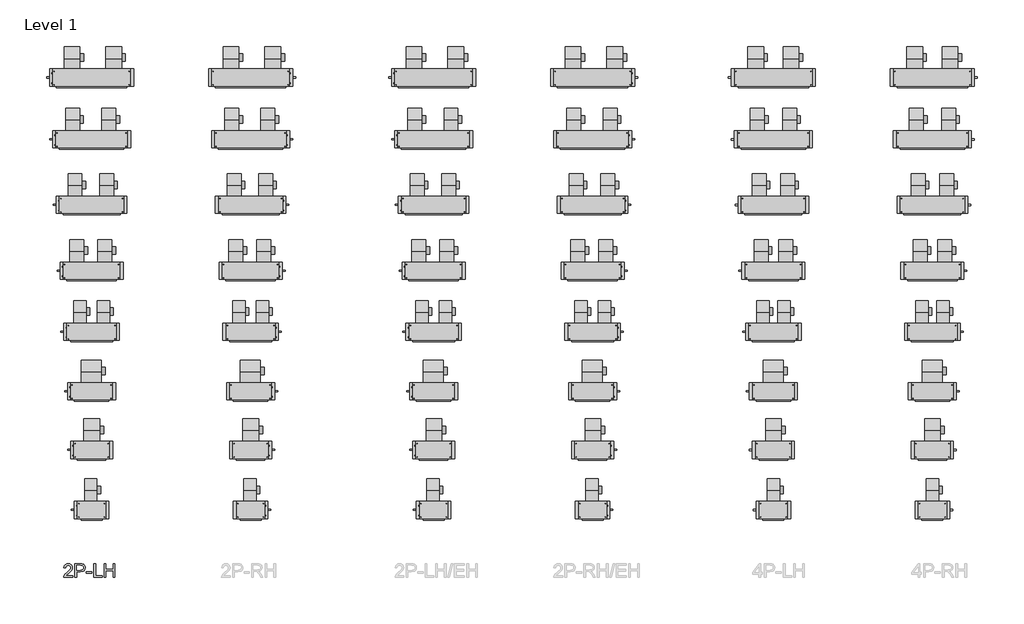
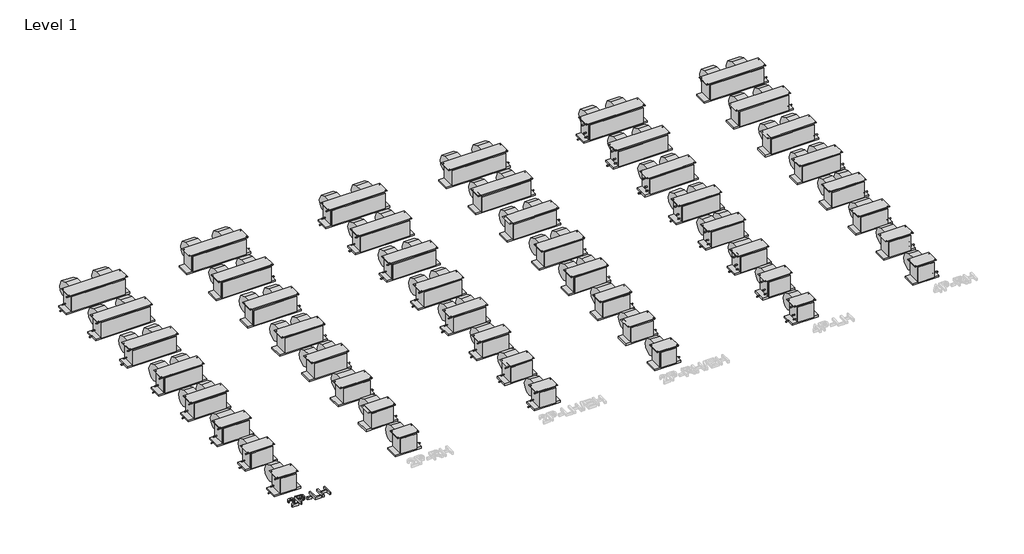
# One storey, part 1 of 2: 49 proxies.
"""IFC4 building model written with IfcOpenShell, lengths in millimetres."""

from ifc_helpers import new_model, si_unit, origin, origin_with_axes, place, context, project, spatial, polyline, outline, extrude, transform, mapped, element, save
from components import mechanical_equipment_b336f197, mechanical_equipment_7bd75dd6, mechanical_equipment_5b2d4382, mechanical_equipment_0da765f5, mechanical_equipment_d3091ad7, mechanical_equipment_25ea116e, mechanical_equipment_83f86b39, mechanical_equipment_b630f660, mechanical_equipment_327c370d, mechanical_equipment_c1a056bd, mechanical_equipment_f3a8d123, mechanical_equipment_8c316060, mechanical_equipment_e92b93c2, mechanical_equipment_0c6f6ab9, mechanical_equipment_46685ae8, mechanical_equipment_cc6112a4, mechanical_equipment_44f1a98d, mechanical_equipment_1c2b563a, mechanical_equipment_5883dd97, mechanical_equipment_65178799, mechanical_equipment_d59f8dc6, mechanical_equipment_3fbaa853, mechanical_equipment_f518d2dd, mechanical_equipment_786d0d70, mechanical_equipment_b18771d2, mechanical_equipment_a8bdb0d3, mechanical_equipment_5432daf3, mechanical_equipment_55c23c7e, mechanical_equipment_1806666c, mechanical_equipment_1f24bf90, mechanical_equipment_5fc22377, mechanical_equipment_e01b4b51, mechanical_equipment_2f8f14a6, mechanical_equipment_86e26982, mechanical_equipment_22c93f21, mechanical_equipment_be0efeef, mechanical_equipment_c3af3c27, mechanical_equipment_f2d7e844, mechanical_equipment_6f511b50, mechanical_equipment_e2659b0b

model = new_model("IFC4")

# Units and contexts
model_context = context("Model", 3, world=origin())
ifc_project = project(units=[si_unit("LENGTHUNIT", "METRE", prefix="MILLI")], contexts=[model_context])

# Site, building, storey
site = spatial("IfcSite", under=ifc_project)
building = spatial("IfcBuilding", under=site)
storey = spatial("IfcBuildingStorey", under=building, Name="Level 1", Elevation=0.0)

# Proxies
placement = place(None, origin())
mechanical_equipment_shape = mechanical_equipment_b336f197(model_context)
element("IfcBuildingElementProxy", 1, Name="Concealed_High_Capacity_Horizontal_Fan_Coil_Unit_-_42DAA_-_CARRIER_-_2-Pipe_Cool-EHeat_RH_2022 : Size 06 - 277v/60Hz/1Ph - 6 Row 4.0kW", ObjectType="Concealed_High_Capacity_Horizontal_Fan_Coil_Unit_-_42DAA_-_CARRIER_-_2-Pipe_Cool-EHeat_RH_2022 : Size 06 - 277v/60Hz/1Ph - 6 Row 4.0kW", at=placement, inside=storey, context=model_context, shape_type="MappedRepresentation", body=[
    mapped(mechanical_equipment_shape, transform((-18320.8750615, -4073.8454027, 0.0), x_axis=(1.0, 0.0, 0.0), y_axis=(0.0, 1.0, 0.0), z_axis=(0.0, 0.0, 1.0))),
])
mechanical_equipment_2_shape = mechanical_equipment_7bd75dd6(model_context)
element("IfcBuildingElementProxy", 2, Name="Concealed_High_Capacity_Horizontal_Fan_Coil_Unit_-_42DAA_-_CARRIER_-_2-Pipe_Cool-EHeat_RH_2022 : Size 08 - 277v/60Hz/1Ph - 6 Row 6.0kW", ObjectType="Concealed_High_Capacity_Horizontal_Fan_Coil_Unit_-_42DAA_-_CARRIER_-_2-Pipe_Cool-EHeat_RH_2022 : Size 08 - 277v/60Hz/1Ph - 6 Row 6.0kW", at=placement, inside=storey, context=model_context, shape_type="MappedRepresentation", body=[
    mapped(mechanical_equipment_2_shape, transform((-18320.8750615, -3058.0277745, 0.0), x_axis=(1.0, 0.0, 0.0), y_axis=(0.0, 1.0, 0.0), z_axis=(0.0, 0.0, 1.0))),
])
mechanical_equipment_3_shape = mechanical_equipment_5b2d4382(model_context)
element("IfcBuildingElementProxy", 3, Name="Concealed_High_Capacity_Horizontal_Fan_Coil_Unit_-_42DAA_-_CARRIER_-_2-Pipe_Cool-EHeat_RH_2022 : Size 10 - 277v/60Hz/1Ph - 6 Row 7.0kW", ObjectType="Concealed_High_Capacity_Horizontal_Fan_Coil_Unit_-_42DAA_-_CARRIER_-_2-Pipe_Cool-EHeat_RH_2022 : Size 10 - 277v/60Hz/1Ph - 6 Row 7.0kW", at=placement, inside=storey, context=model_context, shape_type="MappedRepresentation", body=[
    mapped(mechanical_equipment_3_shape, transform((-18320.8750615, -2065.4731455, 0.0), x_axis=(1.0, 0.0, 0.0), y_axis=(0.0, 1.0, 0.0), z_axis=(0.0, 0.0, 1.0))),
])
mechanical_equipment_4_shape = mechanical_equipment_0da765f5(model_context)
element("IfcBuildingElementProxy", 4, Name="Concealed_High_Capacity_Horizontal_Fan_Coil_Unit_-_42DAA_-_CARRIER_-_2-Pipe_Cool-EHeat_RH_2022 : Size 12 - 277v/60Hz/1Ph - 6 Row 9.0kW", ObjectType="Concealed_High_Capacity_Horizontal_Fan_Coil_Unit_-_42DAA_-_CARRIER_-_2-Pipe_Cool-EHeat_RH_2022 : Size 12 - 277v/60Hz/1Ph - 6 Row 9.0kW", at=placement, inside=storey, context=model_context, shape_type="MappedRepresentation", body=[
    mapped(mechanical_equipment_4_shape, transform((-18320.8750615, -1057.4098504, 0.0), x_axis=(1.0, 0.0, 0.0), y_axis=(0.0, 1.0, 0.0), z_axis=(0.0, 0.0, 1.0))),
])
mechanical_equipment_5_shape = mechanical_equipment_d3091ad7(model_context)
element("IfcBuildingElementProxy", 5, Name="Concealed_High_Capacity_Horizontal_Fan_Coil_Unit_-_42DAA_-_CARRIER_-_2-Pipe_Cool-EHeat_RH_2022 : Size 14 - 277v/60Hz/1Ph - 6 Row 10.0kW", ObjectType="Concealed_High_Capacity_Horizontal_Fan_Coil_Unit_-_42DAA_-_CARRIER_-_2-Pipe_Cool-EHeat_RH_2022 : Size 14 - 277v/60Hz/1Ph - 6 Row 10.0kW", at=placement, inside=storey, context=model_context, shape_type="MappedRepresentation", body=[
    mapped(mechanical_equipment_5_shape, transform((-18320.8750615, -26.0835561, 0.0), x_axis=(1.0, 0.0, 0.0), y_axis=(0.0, 1.0, 0.0), z_axis=(0.0, 0.0, 1.0))),
])
mechanical_equipment_6_shape = mechanical_equipment_25ea116e(model_context)
element("IfcBuildingElementProxy", 6, Name="Concealed_High_Capacity_Horizontal_Fan_Coil_Unit_-_42DAA_-_CARRIER_-_2-Pipe_Cool-EHeat_RH_2022 : Size 16 - 277v/60Hz/1Ph - 6 Row 12.0kW", ObjectType="Concealed_High_Capacity_Horizontal_Fan_Coil_Unit_-_42DAA_-_CARRIER_-_2-Pipe_Cool-EHeat_RH_2022 : Size 16 - 277v/60Hz/1Ph - 6 Row 12.0kW", at=placement, inside=storey, context=model_context, shape_type="MappedRepresentation", body=[
    mapped(mechanical_equipment_6_shape, transform((-18320.8750615, 1090.5404016, 0.0), x_axis=(1.0, 0.0, 0.0), y_axis=(0.0, 1.0, 0.0), z_axis=(0.0, 0.0, 1.0))),
])
mechanical_equipment_7_shape = mechanical_equipment_83f86b39(model_context)
element("IfcBuildingElementProxy", 7, Name="Concealed_High_Capacity_Horizontal_Fan_Coil_Unit_-_42DAA_-_CARRIER_-_2-Pipe_Cool-EHeat_RH_2022 : Size 18 - 277v/60Hz/1Ph - 6 Row 12.0kW", ObjectType="Concealed_High_Capacity_Horizontal_Fan_Coil_Unit_-_42DAA_-_CARRIER_-_2-Pipe_Cool-EHeat_RH_2022 : Size 18 - 277v/60Hz/1Ph - 6 Row 12.0kW", at=placement, inside=storey, context=model_context, shape_type="MappedRepresentation", body=[
    mapped(mechanical_equipment_7_shape, transform((-18320.8750615, 2199.4100262, 0.0), x_axis=(1.0, 0.0, 0.0), y_axis=(0.0, 1.0, 0.0), z_axis=(0.0, 0.0, 1.0))),
])
mechanical_equipment_8_shape = mechanical_equipment_b630f660(model_context)
element("IfcBuildingElementProxy", 8, Name="Concealed_High_Capacity_Horizontal_Fan_Coil_Unit_-_42DAA_-_CARRIER_-_2-Pipe_Cool-EHeat_RH_2022 : Size 20 - 277v/60Hz/1Ph - 6 Row 14.0kW", ObjectType="Concealed_High_Capacity_Horizontal_Fan_Coil_Unit_-_42DAA_-_CARRIER_-_2-Pipe_Cool-EHeat_RH_2022 : Size 20 - 277v/60Hz/1Ph - 6 Row 14.0kW", at=placement, inside=storey, context=model_context, shape_type="MappedRepresentation", body=[
    mapped(mechanical_equipment_8_shape, transform((-18320.8750615, 3247.3200933, 0.0), x_axis=(1.0, 0.0, 0.0), y_axis=(0.0, 1.0, 0.0), z_axis=(0.0, 0.0, 1.0))),
])
mechanical_equipment_9_shape = mechanical_equipment_327c370d(model_context)
element("IfcBuildingElementProxy", 9, Name="Concealed_High_Capacity_Horizontal_Fan_Coil_Unit_-_42DAA_-_CARRIER_-_4-Pipe_RH_2022 : Size 06 - 277v/60Hz/1Ph - 6/2 Coil", ObjectType="Concealed_High_Capacity_Horizontal_Fan_Coil_Unit_-_42DAA_-_CARRIER_-_4-Pipe_RH_2022 : Size 06 - 277v/60Hz/1Ph - 6/2 Coil", at=placement, inside=storey, context=model_context, shape_type="MappedRepresentation", body=[
    mapped(mechanical_equipment_9_shape, transform((-12694.3891912, -4089.7204027, 0.0), x_axis=(1.0, 0.0, 0.0), y_axis=(0.0, 1.0, 0.0), z_axis=(0.0, 0.0, 1.0))),
])
mechanical_equipment_10_shape = mechanical_equipment_c1a056bd(model_context)
element("IfcBuildingElementProxy", 10, Name="Concealed_High_Capacity_Horizontal_Fan_Coil_Unit_-_42DAA_-_CARRIER_-_4-Pipe_RH_2022 : Size 08 - 277v/60Hz/1Ph - 6/2 Coil", ObjectType="Concealed_High_Capacity_Horizontal_Fan_Coil_Unit_-_42DAA_-_CARRIER_-_4-Pipe_RH_2022 : Size 08 - 277v/60Hz/1Ph - 6/2 Coil", at=placement, inside=storey, context=model_context, shape_type="MappedRepresentation", body=[
    mapped(mechanical_equipment_10_shape, transform((-12694.3891912, -3073.9027745, 0.0), x_axis=(1.0, 0.0, 0.0), y_axis=(0.0, 1.0, 0.0), z_axis=(0.0, 0.0, 1.0))),
])
mechanical_equipment_11_shape = mechanical_equipment_f3a8d123(model_context)
element("IfcBuildingElementProxy", 11, Name="Concealed_High_Capacity_Horizontal_Fan_Coil_Unit_-_42DAA_-_CARRIER_-_4-Pipe_RH_2022 : Size 10 - 277v/60Hz/1Ph - 6/2 Coil", ObjectType="Concealed_High_Capacity_Horizontal_Fan_Coil_Unit_-_42DAA_-_CARRIER_-_4-Pipe_RH_2022 : Size 10 - 277v/60Hz/1Ph - 6/2 Coil", at=placement, inside=storey, context=model_context, shape_type="MappedRepresentation", body=[
    mapped(mechanical_equipment_11_shape, transform((-12694.3891912, -2081.3481455, 0.0), x_axis=(1.0, 0.0, 0.0), y_axis=(0.0, 1.0, 0.0), z_axis=(0.0, 0.0, 1.0))),
])
mechanical_equipment_12_shape = mechanical_equipment_8c316060(model_context)
element("IfcBuildingElementProxy", 12, Name="Concealed_High_Capacity_Horizontal_Fan_Coil_Unit_-_42DAA_-_CARRIER_-_4-Pipe_RH_2022 : Size 12 - 277v/60Hz/1Ph - 6/2 Coil", ObjectType="Concealed_High_Capacity_Horizontal_Fan_Coil_Unit_-_42DAA_-_CARRIER_-_4-Pipe_RH_2022 : Size 12 - 277v/60Hz/1Ph - 6/2 Coil", at=placement, inside=storey, context=model_context, shape_type="MappedRepresentation", body=[
    mapped(mechanical_equipment_12_shape, transform((-12694.3891912, -1073.2848504, 0.0), x_axis=(1.0, 0.0, 0.0), y_axis=(0.0, 1.0, 0.0), z_axis=(0.0, 0.0, 1.0))),
])
mechanical_equipment_13_shape = mechanical_equipment_e92b93c2(model_context)
element("IfcBuildingElementProxy", 13, Name="Concealed_High_Capacity_Horizontal_Fan_Coil_Unit_-_42DAA_-_CARRIER_-_4-Pipe_RH_2022 : Size 14 - 277v/60Hz/1Ph - 6/2 Coil", ObjectType="Concealed_High_Capacity_Horizontal_Fan_Coil_Unit_-_42DAA_-_CARRIER_-_4-Pipe_RH_2022 : Size 14 - 277v/60Hz/1Ph - 6/2 Coil", at=placement, inside=storey, context=model_context, shape_type="MappedRepresentation", body=[
    mapped(mechanical_equipment_13_shape, transform((-12694.3891912, -41.9585561, 0.0), x_axis=(1.0, 0.0, 0.0), y_axis=(0.0, 1.0, 0.0), z_axis=(0.0, 0.0, 1.0))),
])
mechanical_equipment_14_shape = mechanical_equipment_0c6f6ab9(model_context)
element("IfcBuildingElementProxy", 14, Name="Concealed_High_Capacity_Horizontal_Fan_Coil_Unit_-_42DAA_-_CARRIER_-_4-Pipe_RH_2022 : Size 16 - 277v/60Hz/1Ph - 6/2 Coil", ObjectType="Concealed_High_Capacity_Horizontal_Fan_Coil_Unit_-_42DAA_-_CARRIER_-_4-Pipe_RH_2022 : Size 16 - 277v/60Hz/1Ph - 6/2 Coil", at=placement, inside=storey, context=model_context, shape_type="MappedRepresentation", body=[
    mapped(mechanical_equipment_14_shape, transform((-12694.3891912, 1074.6654016, 0.0), x_axis=(1.0, 0.0, 0.0), y_axis=(0.0, 1.0, 0.0), z_axis=(0.0, 0.0, 1.0))),
])
mechanical_equipment_15_shape = mechanical_equipment_46685ae8(model_context)
element("IfcBuildingElementProxy", 15, Name="Concealed_High_Capacity_Horizontal_Fan_Coil_Unit_-_42DAA_-_CARRIER_-_4-Pipe_RH_2022 : Size 18 - 277v/60Hz/1Ph - 6/2 Coil", ObjectType="Concealed_High_Capacity_Horizontal_Fan_Coil_Unit_-_42DAA_-_CARRIER_-_4-Pipe_RH_2022 : Size 18 - 277v/60Hz/1Ph - 6/2 Coil", at=placement, inside=storey, context=model_context, shape_type="MappedRepresentation", body=[
    mapped(mechanical_equipment_15_shape, transform((-12694.3891912, 2183.5350262, 0.0), x_axis=(1.0, 0.0, 0.0), y_axis=(0.0, 1.0, 0.0), z_axis=(0.0, 0.0, 1.0))),
])
mechanical_equipment_16_shape = mechanical_equipment_cc6112a4(model_context)
element("IfcBuildingElementProxy", 16, Name="Concealed_High_Capacity_Horizontal_Fan_Coil_Unit_-_42DAA_-_CARRIER_-_4-Pipe_RH_2022 : Size 20 - 277v/60Hz/1Ph - 6/2 Coil", ObjectType="Concealed_High_Capacity_Horizontal_Fan_Coil_Unit_-_42DAA_-_CARRIER_-_4-Pipe_RH_2022 : Size 20 - 277v/60Hz/1Ph - 6/2 Coil", at=placement, inside=storey, context=model_context, shape_type="MappedRepresentation", body=[
    mapped(mechanical_equipment_16_shape, transform((-12694.3891912, 3231.4450933, 0.0), x_axis=(1.0, 0.0, 0.0), y_axis=(0.0, 1.0, 0.0), z_axis=(0.0, 0.0, 1.0))),
])
mechanical_equipment_17_shape = mechanical_equipment_44f1a98d(model_context)
element("IfcBuildingElementProxy", 17, Name="Concealed_High_Capacity_Horizontal_Fan_Coil_Unit_-_42DAA_-_CARRIER_-_2-Pipe_Cool-EHeat_LH_2022 : Size 06 - 277v/60Hz/1Ph - 6 Row 4.0kW", ObjectType="Concealed_High_Capacity_Horizontal_Fan_Coil_Unit_-_42DAA_-_CARRIER_-_2-Pipe_Cool-EHeat_LH_2022 : Size 06 - 277v/60Hz/1Ph - 6 Row 4.0kW", at=placement, inside=storey, context=model_context, shape_type="MappedRepresentation", body=[
    mapped(mechanical_equipment_17_shape, transform((-21013.2750615, -4073.8454027, 0.0), x_axis=(1.0, 0.0, 0.0), y_axis=(0.0, 1.0, 0.0), z_axis=(0.0, 0.0, 1.0))),
])
mechanical_equipment_18_shape = mechanical_equipment_1c2b563a(model_context)
element("IfcBuildingElementProxy", 18, Name="Concealed_High_Capacity_Horizontal_Fan_Coil_Unit_-_42DAA_-_CARRIER_-_2-Pipe_Cool-EHeat_LH_2022 : Size 08 - 277v/60Hz/1Ph - 6 Row 6.0kW", ObjectType="Concealed_High_Capacity_Horizontal_Fan_Coil_Unit_-_42DAA_-_CARRIER_-_2-Pipe_Cool-EHeat_LH_2022 : Size 08 - 277v/60Hz/1Ph - 6 Row 6.0kW", at=placement, inside=storey, context=model_context, shape_type="MappedRepresentation", body=[
    mapped(mechanical_equipment_18_shape, transform((-21013.2750615, -3058.0277745, 0.0), x_axis=(1.0, 0.0, 0.0), y_axis=(0.0, 1.0, 0.0), z_axis=(0.0, 0.0, 1.0))),
])
mechanical_equipment_19_shape = mechanical_equipment_5883dd97(model_context)
element("IfcBuildingElementProxy", 19, Name="Concealed_High_Capacity_Horizontal_Fan_Coil_Unit_-_42DAA_-_CARRIER_-_2-Pipe_Cool-EHeat_LH_2022 : Size 10 - 277v/60Hz/1Ph - 6 Row 7.0kW", ObjectType="Concealed_High_Capacity_Horizontal_Fan_Coil_Unit_-_42DAA_-_CARRIER_-_2-Pipe_Cool-EHeat_LH_2022 : Size 10 - 277v/60Hz/1Ph - 6 Row 7.0kW", at=placement, inside=storey, context=model_context, shape_type="MappedRepresentation", body=[
    mapped(mechanical_equipment_19_shape, transform((-21013.2750615, -2065.4731455, 0.0), x_axis=(1.0, 0.0, 0.0), y_axis=(0.0, 1.0, 0.0), z_axis=(0.0, 0.0, 1.0))),
])
mechanical_equipment_20_shape = mechanical_equipment_65178799(model_context)
element("IfcBuildingElementProxy", 20, Name="Concealed_High_Capacity_Horizontal_Fan_Coil_Unit_-_42DAA_-_CARRIER_-_2-Pipe_Cool-EHeat_LH_2022 : Size 12 - 277v/60Hz/1Ph - 6 Row 9.0kW", ObjectType="Concealed_High_Capacity_Horizontal_Fan_Coil_Unit_-_42DAA_-_CARRIER_-_2-Pipe_Cool-EHeat_LH_2022 : Size 12 - 277v/60Hz/1Ph - 6 Row 9.0kW", at=placement, inside=storey, context=model_context, shape_type="MappedRepresentation", body=[
    mapped(mechanical_equipment_20_shape, transform((-21013.2750615, -1057.4098504, 0.0), x_axis=(1.0, 0.0, 0.0), y_axis=(0.0, 1.0, 0.0), z_axis=(0.0, 0.0, 1.0))),
])
mechanical_equipment_21_shape = mechanical_equipment_d59f8dc6(model_context)
element("IfcBuildingElementProxy", 21, Name="Concealed_High_Capacity_Horizontal_Fan_Coil_Unit_-_42DAA_-_CARRIER_-_2-Pipe_Cool-EHeat_LH_2022 : Size 14 - 277v/60Hz/1Ph - 6 Row 10.0kW", ObjectType="Concealed_High_Capacity_Horizontal_Fan_Coil_Unit_-_42DAA_-_CARRIER_-_2-Pipe_Cool-EHeat_LH_2022 : Size 14 - 277v/60Hz/1Ph - 6 Row 10.0kW", at=placement, inside=storey, context=model_context, shape_type="MappedRepresentation", body=[
    mapped(mechanical_equipment_21_shape, transform((-21013.2750615, -26.0835561, 0.0), x_axis=(1.0, 0.0, 0.0), y_axis=(0.0, 1.0, 0.0), z_axis=(0.0, 0.0, 1.0))),
])
mechanical_equipment_22_shape = mechanical_equipment_3fbaa853(model_context)
element("IfcBuildingElementProxy", 22, Name="Concealed_High_Capacity_Horizontal_Fan_Coil_Unit_-_42DAA_-_CARRIER_-_2-Pipe_Cool-EHeat_LH_2022 : Size 16 - 277v/60Hz/1Ph - 6 Row 12.0kW", ObjectType="Concealed_High_Capacity_Horizontal_Fan_Coil_Unit_-_42DAA_-_CARRIER_-_2-Pipe_Cool-EHeat_LH_2022 : Size 16 - 277v/60Hz/1Ph - 6 Row 12.0kW", at=placement, inside=storey, context=model_context, shape_type="MappedRepresentation", body=[
    mapped(mechanical_equipment_22_shape, transform((-21013.2750615, 1090.5404016, 0.0), x_axis=(1.0, 0.0, 0.0), y_axis=(0.0, 1.0, 0.0), z_axis=(0.0, 0.0, 1.0))),
])
mechanical_equipment_23_shape = mechanical_equipment_f518d2dd(model_context)
element("IfcBuildingElementProxy", 23, Name="Concealed_High_Capacity_Horizontal_Fan_Coil_Unit_-_42DAA_-_CARRIER_-_2-Pipe_Cool-EHeat_LH_2022 : Size 18 - 277v/60Hz/1Ph - 6 Row 12.0kW", ObjectType="Concealed_High_Capacity_Horizontal_Fan_Coil_Unit_-_42DAA_-_CARRIER_-_2-Pipe_Cool-EHeat_LH_2022 : Size 18 - 277v/60Hz/1Ph - 6 Row 12.0kW", at=placement, inside=storey, context=model_context, shape_type="MappedRepresentation", body=[
    mapped(mechanical_equipment_23_shape, transform((-21013.2750615, 2199.4100262, 0.0), x_axis=(1.0, 0.0, 0.0), y_axis=(0.0, 1.0, 0.0), z_axis=(0.0, 0.0, 1.0))),
])
mechanical_equipment_24_shape = mechanical_equipment_786d0d70(model_context)
element("IfcBuildingElementProxy", 24, Name="Concealed_High_Capacity_Horizontal_Fan_Coil_Unit_-_42DAA_-_CARRIER_-_2-Pipe_Cool-EHeat_LH_2022 : Size 20 - 277v/60Hz/1Ph - 6 Row 14.0kW", ObjectType="Concealed_High_Capacity_Horizontal_Fan_Coil_Unit_-_42DAA_-_CARRIER_-_2-Pipe_Cool-EHeat_LH_2022 : Size 20 - 277v/60Hz/1Ph - 6 Row 14.0kW", at=placement, inside=storey, context=model_context, shape_type="MappedRepresentation", body=[
    mapped(mechanical_equipment_24_shape, transform((-21013.2750615, 3247.3200933, 0.0), x_axis=(1.0, 0.0, 0.0), y_axis=(0.0, 1.0, 0.0), z_axis=(0.0, 0.0, 1.0))),
])
mechanical_equipment_25_shape = mechanical_equipment_b18771d2(model_context)
element("IfcBuildingElementProxy", 25, Name="Concealed_High_Capacity_Horizontal_Fan_Coil_Unit_-_42DAA_-_CARRIER_-_4-Pipe_LH_2022 : Size 06 - 277v/60Hz/1Ph - 6/2 Coil", ObjectType="Concealed_High_Capacity_Horizontal_Fan_Coil_Unit_-_42DAA_-_CARRIER_-_4-Pipe_LH_2022 : Size 06 - 277v/60Hz/1Ph - 6/2 Coil", at=placement, inside=storey, context=model_context, shape_type="MappedRepresentation", body=[
    mapped(mechanical_equipment_25_shape, transform((-15386.7891912, -4089.7204027, 0.0), x_axis=(1.0, 0.0, 0.0), y_axis=(0.0, 1.0, 0.0), z_axis=(0.0, 0.0, 1.0))),
])
mechanical_equipment_26_shape = mechanical_equipment_a8bdb0d3(model_context)
element("IfcBuildingElementProxy", 26, Name="Concealed_High_Capacity_Horizontal_Fan_Coil_Unit_-_42DAA_-_CARRIER_-_4-Pipe_LH_2022 : Size 08 - 277v/60Hz/1Ph - 6/2 Coil", ObjectType="Concealed_High_Capacity_Horizontal_Fan_Coil_Unit_-_42DAA_-_CARRIER_-_4-Pipe_LH_2022 : Size 08 - 277v/60Hz/1Ph - 6/2 Coil", at=placement, inside=storey, context=model_context, shape_type="MappedRepresentation", body=[
    mapped(mechanical_equipment_26_shape, transform((-15386.7891912, -3073.9027745, 0.0), x_axis=(1.0, 0.0, 0.0), y_axis=(0.0, 1.0, 0.0), z_axis=(0.0, 0.0, 1.0))),
])
mechanical_equipment_27_shape = mechanical_equipment_5432daf3(model_context)
element("IfcBuildingElementProxy", 27, Name="Concealed_High_Capacity_Horizontal_Fan_Coil_Unit_-_42DAA_-_CARRIER_-_4-Pipe_LH_2022 : Size 10 - 277v/60Hz/1Ph - 6/2 Coil", ObjectType="Concealed_High_Capacity_Horizontal_Fan_Coil_Unit_-_42DAA_-_CARRIER_-_4-Pipe_LH_2022 : Size 10 - 277v/60Hz/1Ph - 6/2 Coil", at=placement, inside=storey, context=model_context, shape_type="MappedRepresentation", body=[
    mapped(mechanical_equipment_27_shape, transform((-15386.7891912, -2081.3481455, 0.0), x_axis=(1.0, 0.0, 0.0), y_axis=(0.0, 1.0, 0.0), z_axis=(0.0, 0.0, 1.0))),
])
mechanical_equipment_28_shape = mechanical_equipment_55c23c7e(model_context)
element("IfcBuildingElementProxy", 28, Name="Concealed_High_Capacity_Horizontal_Fan_Coil_Unit_-_42DAA_-_CARRIER_-_4-Pipe_LH_2022 : Size 12 - 277v/60Hz/1Ph - 6/2 Coil", ObjectType="Concealed_High_Capacity_Horizontal_Fan_Coil_Unit_-_42DAA_-_CARRIER_-_4-Pipe_LH_2022 : Size 12 - 277v/60Hz/1Ph - 6/2 Coil", at=placement, inside=storey, context=model_context, shape_type="MappedRepresentation", body=[
    mapped(mechanical_equipment_28_shape, transform((-15386.7891912, -1073.2848504, 0.0), x_axis=(1.0, 0.0, 0.0), y_axis=(0.0, 1.0, 0.0), z_axis=(0.0, 0.0, 1.0))),
])
mechanical_equipment_29_shape = mechanical_equipment_1806666c(model_context)
element("IfcBuildingElementProxy", 29, Name="Concealed_High_Capacity_Horizontal_Fan_Coil_Unit_-_42DAA_-_CARRIER_-_4-Pipe_LH_2022 : Size 14 - 277v/60Hz/1Ph - 6/2 Coil", ObjectType="Concealed_High_Capacity_Horizontal_Fan_Coil_Unit_-_42DAA_-_CARRIER_-_4-Pipe_LH_2022 : Size 14 - 277v/60Hz/1Ph - 6/2 Coil", at=placement, inside=storey, context=model_context, shape_type="MappedRepresentation", body=[
    mapped(mechanical_equipment_29_shape, transform((-15386.7891912, -41.9585561, 0.0), x_axis=(1.0, 0.0, 0.0), y_axis=(0.0, 1.0, 0.0), z_axis=(0.0, 0.0, 1.0))),
])
mechanical_equipment_30_shape = mechanical_equipment_1f24bf90(model_context)
element("IfcBuildingElementProxy", 30, Name="Concealed_High_Capacity_Horizontal_Fan_Coil_Unit_-_42DAA_-_CARRIER_-_4-Pipe_LH_2022 : Size 16 - 277v/60Hz/1Ph - 6/2 Coil", ObjectType="Concealed_High_Capacity_Horizontal_Fan_Coil_Unit_-_42DAA_-_CARRIER_-_4-Pipe_LH_2022 : Size 16 - 277v/60Hz/1Ph - 6/2 Coil", at=placement, inside=storey, context=model_context, shape_type="MappedRepresentation", body=[
    mapped(mechanical_equipment_30_shape, transform((-15386.7891912, 1074.6654016, 0.0), x_axis=(1.0, 0.0, 0.0), y_axis=(0.0, 1.0, 0.0), z_axis=(0.0, 0.0, 1.0))),
])
mechanical_equipment_31_shape = mechanical_equipment_5fc22377(model_context)
element("IfcBuildingElementProxy", 31, Name="Concealed_High_Capacity_Horizontal_Fan_Coil_Unit_-_42DAA_-_CARRIER_-_4-Pipe_LH_2022 : Size 18 - 277v/60Hz/1Ph - 6/2 Coil", ObjectType="Concealed_High_Capacity_Horizontal_Fan_Coil_Unit_-_42DAA_-_CARRIER_-_4-Pipe_LH_2022 : Size 18 - 277v/60Hz/1Ph - 6/2 Coil", at=placement, inside=storey, context=model_context, shape_type="MappedRepresentation", body=[
    mapped(mechanical_equipment_31_shape, transform((-15386.7891912, 2183.5350262, 0.0), x_axis=(1.0, 0.0, 0.0), y_axis=(0.0, 1.0, 0.0), z_axis=(0.0, 0.0, 1.0))),
])
mechanical_equipment_32_shape = mechanical_equipment_e01b4b51(model_context)
element("IfcBuildingElementProxy", 32, Name="Concealed_High_Capacity_Horizontal_Fan_Coil_Unit_-_42DAA_-_CARRIER_-_4-Pipe_LH_2022 : Size 20 - 277v/60Hz/1Ph - 6/2 Coil", ObjectType="Concealed_High_Capacity_Horizontal_Fan_Coil_Unit_-_42DAA_-_CARRIER_-_4-Pipe_LH_2022 : Size 20 - 277v/60Hz/1Ph - 6/2 Coil", at=placement, inside=storey, context=model_context, shape_type="MappedRepresentation", body=[
    mapped(mechanical_equipment_32_shape, transform((-15386.7891912, 3231.4450933, 0.0), x_axis=(1.0, 0.0, 0.0), y_axis=(0.0, 1.0, 0.0), z_axis=(0.0, 0.0, 1.0))),
])
element("IfcBuildingElementProxy", 33, Name="Concealed_High_Capacity_Horizontal_Fan_Coil_Unit_-_42DAA_-_CARRIER_-_2-Pipe_LH_2022 : Size 06 - 277v/60Hz/1Ph - 6 Row 4.0kW", ObjectType="Concealed_High_Capacity_Horizontal_Fan_Coil_Unit_-_42DAA_-_CARRIER_-_2-Pipe_LH_2022 : Size 06 - 277v/60Hz/1Ph - 6 Row 4.0kW", at=placement, inside=storey, context=model_context, shape_type="MappedRepresentation", body=[
    mapped(mechanical_equipment_17_shape, transform((-26804.4750615, -4073.8454027, 0.0), x_axis=(1.0, 0.0, 0.0), y_axis=(0.0, 1.0, 0.0), z_axis=(0.0, 0.0, 1.0))),
])
element("IfcBuildingElementProxy", 34, Name="Concealed_High_Capacity_Horizontal_Fan_Coil_Unit_-_42DAA_-_CARRIER_-_2-Pipe_LH_2022 : Size 08 - 277v/60Hz/1Ph - 6 Row 6.0kW", ObjectType="Concealed_High_Capacity_Horizontal_Fan_Coil_Unit_-_42DAA_-_CARRIER_-_2-Pipe_LH_2022 : Size 08 - 277v/60Hz/1Ph - 6 Row 6.0kW", at=placement, inside=storey, context=model_context, shape_type="MappedRepresentation", body=[
    mapped(mechanical_equipment_18_shape, transform((-26804.4750615, -3058.0277745, 0.0), x_axis=(1.0, 0.0, 0.0), y_axis=(0.0, 1.0, 0.0), z_axis=(0.0, 0.0, 1.0))),
])
element("IfcBuildingElementProxy", 35, Name="Concealed_High_Capacity_Horizontal_Fan_Coil_Unit_-_42DAA_-_CARRIER_-_2-Pipe_LH_2022 : Size 10 - 277v/60Hz/1Ph - 6 Row 7.0kW", ObjectType="Concealed_High_Capacity_Horizontal_Fan_Coil_Unit_-_42DAA_-_CARRIER_-_2-Pipe_LH_2022 : Size 10 - 277v/60Hz/1Ph - 6 Row 7.0kW", at=placement, inside=storey, context=model_context, shape_type="MappedRepresentation", body=[
    mapped(mechanical_equipment_19_shape, transform((-26804.4750615, -2065.4731455, 0.0), x_axis=(1.0, 0.0, 0.0), y_axis=(0.0, 1.0, 0.0), z_axis=(0.0, 0.0, 1.0))),
])
element("IfcBuildingElementProxy", 36, Name="Concealed_High_Capacity_Horizontal_Fan_Coil_Unit_-_42DAA_-_CARRIER_-_2-Pipe_LH_2022 : Size 12 - 277v/60Hz/1Ph - 6 Row 9.0kW", ObjectType="Concealed_High_Capacity_Horizontal_Fan_Coil_Unit_-_42DAA_-_CARRIER_-_2-Pipe_LH_2022 : Size 12 - 277v/60Hz/1Ph - 6 Row 9.0kW", at=placement, inside=storey, context=model_context, shape_type="MappedRepresentation", body=[
    mapped(mechanical_equipment_20_shape, transform((-26804.4750615, -1057.4098504, 0.0), x_axis=(1.0, 0.0, 0.0), y_axis=(0.0, 1.0, 0.0), z_axis=(0.0, 0.0, 1.0))),
])
element("IfcBuildingElementProxy", 37, Name="Concealed_High_Capacity_Horizontal_Fan_Coil_Unit_-_42DAA_-_CARRIER_-_2-Pipe_LH_2022 : Size 14 - 277v/60Hz/1Ph - 6 Row 10.0kW", ObjectType="Concealed_High_Capacity_Horizontal_Fan_Coil_Unit_-_42DAA_-_CARRIER_-_2-Pipe_LH_2022 : Size 14 - 277v/60Hz/1Ph - 6 Row 10.0kW", at=placement, inside=storey, context=model_context, shape_type="MappedRepresentation", body=[
    mapped(mechanical_equipment_21_shape, transform((-26804.4750615, -26.0835561, 0.0), x_axis=(1.0, 0.0, 0.0), y_axis=(0.0, 1.0, 0.0), z_axis=(0.0, 0.0, 1.0))),
])
element("IfcBuildingElementProxy", 38, Name="Concealed_High_Capacity_Horizontal_Fan_Coil_Unit_-_42DAA_-_CARRIER_-_2-Pipe_LH_2022 : Size 16 - 277v/60Hz/1Ph - 6 Row 12.0kW", ObjectType="Concealed_High_Capacity_Horizontal_Fan_Coil_Unit_-_42DAA_-_CARRIER_-_2-Pipe_LH_2022 : Size 16 - 277v/60Hz/1Ph - 6 Row 12.0kW", at=placement, inside=storey, context=model_context, shape_type="MappedRepresentation", body=[
    mapped(mechanical_equipment_22_shape, transform((-26804.4750615, 1090.5404016, 0.0), x_axis=(1.0, 0.0, 0.0), y_axis=(0.0, 1.0, 0.0), z_axis=(0.0, 0.0, 1.0))),
])
element("IfcBuildingElementProxy", 39, Name="Concealed_High_Capacity_Horizontal_Fan_Coil_Unit_-_42DAA_-_CARRIER_-_2-Pipe_LH_2022 : Size 18 - 277v/60Hz/1Ph - 6 Row 12.0kW", ObjectType="Concealed_High_Capacity_Horizontal_Fan_Coil_Unit_-_42DAA_-_CARRIER_-_2-Pipe_LH_2022 : Size 18 - 277v/60Hz/1Ph - 6 Row 12.0kW", at=placement, inside=storey, context=model_context, shape_type="MappedRepresentation", body=[
    mapped(mechanical_equipment_23_shape, transform((-26804.4750615, 2199.4100262, 0.0), x_axis=(1.0, 0.0, 0.0), y_axis=(0.0, 1.0, 0.0), z_axis=(0.0, 0.0, 1.0))),
])
element("IfcBuildingElementProxy", 40, Name="Concealed_High_Capacity_Horizontal_Fan_Coil_Unit_-_42DAA_-_CARRIER_-_2-Pipe_LH_2022 : Size 20 - 277v/60Hz/1Ph - 6 Row 14.0kW", ObjectType="Concealed_High_Capacity_Horizontal_Fan_Coil_Unit_-_42DAA_-_CARRIER_-_2-Pipe_LH_2022 : Size 20 - 277v/60Hz/1Ph - 6 Row 14.0kW", at=placement, inside=storey, context=model_context, shape_type="MappedRepresentation", body=[
    mapped(mechanical_equipment_24_shape, transform((-26804.4750615, 3247.3200933, 0.0), x_axis=(1.0, 0.0, 0.0), y_axis=(0.0, 1.0, 0.0), z_axis=(0.0, 0.0, 1.0))),
])
mechanical_equipment_33_shape = mechanical_equipment_2f8f14a6(model_context)
element("IfcBuildingElementProxy", 41, Name="Concealed_High_Capacity_Horizontal_Fan_Coil_Unit_-_42DAA_-_CARRIER_-_2-Pipe_RH_2022 : Size 06 - 277v/60Hz/1Ph - 6 Row 4.0kW", ObjectType="Concealed_High_Capacity_Horizontal_Fan_Coil_Unit_-_42DAA_-_CARRIER_-_2-Pipe_RH_2022 : Size 06 - 277v/60Hz/1Ph - 6 Row 4.0kW", at=placement, inside=storey, context=model_context, shape_type="MappedRepresentation", body=[
    mapped(mechanical_equipment_33_shape, transform((-24112.0750615, -4073.8454027, 0.0), x_axis=(1.0, 0.0, 0.0), y_axis=(0.0, 1.0, 0.0), z_axis=(0.0, 0.0, 1.0))),
])
mechanical_equipment_34_shape = mechanical_equipment_86e26982(model_context)
element("IfcBuildingElementProxy", 42, Name="Concealed_High_Capacity_Horizontal_Fan_Coil_Unit_-_42DAA_-_CARRIER_-_2-Pipe_RH_2022 : Size 08 - 277v/60Hz/1Ph - 6 Row 6.0kW", ObjectType="Concealed_High_Capacity_Horizontal_Fan_Coil_Unit_-_42DAA_-_CARRIER_-_2-Pipe_RH_2022 : Size 08 - 277v/60Hz/1Ph - 6 Row 6.0kW", at=placement, inside=storey, context=model_context, shape_type="MappedRepresentation", body=[
    mapped(mechanical_equipment_34_shape, transform((-24112.0750615, -3058.0277745, 0.0), x_axis=(1.0, 0.0, 0.0), y_axis=(0.0, 1.0, 0.0), z_axis=(0.0, 0.0, 1.0))),
])
mechanical_equipment_35_shape = mechanical_equipment_22c93f21(model_context)
element("IfcBuildingElementProxy", 43, Name="Concealed_High_Capacity_Horizontal_Fan_Coil_Unit_-_42DAA_-_CARRIER_-_2-Pipe_RH_2022 : Size 10 - 277v/60Hz/1Ph - 6 Row 7.0kW", ObjectType="Concealed_High_Capacity_Horizontal_Fan_Coil_Unit_-_42DAA_-_CARRIER_-_2-Pipe_RH_2022 : Size 10 - 277v/60Hz/1Ph - 6 Row 7.0kW", at=placement, inside=storey, context=model_context, shape_type="MappedRepresentation", body=[
    mapped(mechanical_equipment_35_shape, transform((-24112.0750615, -2065.4731455, 0.0), x_axis=(1.0, 0.0, 0.0), y_axis=(0.0, 1.0, 0.0), z_axis=(0.0, 0.0, 1.0))),
])
mechanical_equipment_36_shape = mechanical_equipment_be0efeef(model_context)
element("IfcBuildingElementProxy", 44, Name="Concealed_High_Capacity_Horizontal_Fan_Coil_Unit_-_42DAA_-_CARRIER_-_2-Pipe_RH_2022 : Size 12 - 277v/60Hz/1Ph - 6 Row 9.0kW", ObjectType="Concealed_High_Capacity_Horizontal_Fan_Coil_Unit_-_42DAA_-_CARRIER_-_2-Pipe_RH_2022 : Size 12 - 277v/60Hz/1Ph - 6 Row 9.0kW", at=placement, inside=storey, context=model_context, shape_type="MappedRepresentation", body=[
    mapped(mechanical_equipment_36_shape, transform((-24112.0750615, -1057.4098504, 0.0), x_axis=(1.0, 0.0, 0.0), y_axis=(0.0, 1.0, 0.0), z_axis=(0.0, 0.0, 1.0))),
])
mechanical_equipment_37_shape = mechanical_equipment_c3af3c27(model_context)
element("IfcBuildingElementProxy", 45, Name="Concealed_High_Capacity_Horizontal_Fan_Coil_Unit_-_42DAA_-_CARRIER_-_2-Pipe_RH_2022 : Size 14 - 277v/60Hz/1Ph - 6 Row 10.0kW", ObjectType="Concealed_High_Capacity_Horizontal_Fan_Coil_Unit_-_42DAA_-_CARRIER_-_2-Pipe_RH_2022 : Size 14 - 277v/60Hz/1Ph - 6 Row 10.0kW", at=placement, inside=storey, context=model_context, shape_type="MappedRepresentation", body=[
    mapped(mechanical_equipment_37_shape, transform((-24112.0750615, -26.0835561, 0.0), x_axis=(1.0, 0.0, 0.0), y_axis=(0.0, 1.0, 0.0), z_axis=(0.0, 0.0, 1.0))),
])
mechanical_equipment_38_shape = mechanical_equipment_f2d7e844(model_context)
element("IfcBuildingElementProxy", 46, Name="Concealed_High_Capacity_Horizontal_Fan_Coil_Unit_-_42DAA_-_CARRIER_-_2-Pipe_RH_2022 : Size 16 - 277v/60Hz/1Ph - 6 Row 12.0kW", ObjectType="Concealed_High_Capacity_Horizontal_Fan_Coil_Unit_-_42DAA_-_CARRIER_-_2-Pipe_RH_2022 : Size 16 - 277v/60Hz/1Ph - 6 Row 12.0kW", at=placement, inside=storey, context=model_context, shape_type="MappedRepresentation", body=[
    mapped(mechanical_equipment_38_shape, transform((-24112.0750615, 1090.5404016, 0.0), x_axis=(1.0, 0.0, 0.0), y_axis=(0.0, 1.0, 0.0), z_axis=(0.0, 0.0, 1.0))),
])
mechanical_equipment_39_shape = mechanical_equipment_6f511b50(model_context)
element("IfcBuildingElementProxy", 47, Name="Concealed_High_Capacity_Horizontal_Fan_Coil_Unit_-_42DAA_-_CARRIER_-_2-Pipe_RH_2022 : Size 18 - 277v/60Hz/1Ph - 6 Row 12.0kW", ObjectType="Concealed_High_Capacity_Horizontal_Fan_Coil_Unit_-_42DAA_-_CARRIER_-_2-Pipe_RH_2022 : Size 18 - 277v/60Hz/1Ph - 6 Row 12.0kW", at=placement, inside=storey, context=model_context, shape_type="MappedRepresentation", body=[
    mapped(mechanical_equipment_39_shape, transform((-24112.0750615, 2199.4100262, 0.0), x_axis=(1.0, 0.0, 0.0), y_axis=(0.0, 1.0, 0.0), z_axis=(0.0, 0.0, 1.0))),
])
mechanical_equipment_40_shape = mechanical_equipment_e2659b0b(model_context)
element("IfcBuildingElementProxy", 48, Name="Concealed_High_Capacity_Horizontal_Fan_Coil_Unit_-_42DAA_-_CARRIER_-_2-Pipe_RH_2022 : Size 20 - 277v/60Hz/1Ph - 6 Row 14.0kW", ObjectType="Concealed_High_Capacity_Horizontal_Fan_Coil_Unit_-_42DAA_-_CARRIER_-_2-Pipe_RH_2022 : Size 20 - 277v/60Hz/1Ph - 6 Row 14.0kW", at=placement, inside=storey, context=model_context, shape_type="MappedRepresentation", body=[
    mapped(mechanical_equipment_40_shape, transform((-24112.0750615, 3247.3200933, 0.0), x_axis=(1.0, 0.0, 0.0), y_axis=(0.0, 1.0, 0.0), z_axis=(0.0, 0.0, 1.0))),
])
element("IfcBuildingElementProxy", 49, Name="24\" Arial", ObjectType="24\" Arial", at=placement, inside=storey, context=model_context, shape_type="SweptSolid", body=[
    extrude(outline(polyline([(-26972.7363178, -5424.2929428), (-26972.7363178, -5452.9983334), (-27123.4396186, -5452.9983334), (-27120.3560317, -5433.2073121), (-27102.9197495, -5402.7358672), (-27066.981946, -5369.4611614), (-27036.0059141, -5341.9471567), (-27017.420295, -5321.6375321), (-27008.1274854, -5305.1543586), (-27005.0298823, -5289.1197068), (-27007.9522816, -5274.7459871), (-27016.7194798, -5262.7970879), (-27030.1961561, -5254.7447212), (-27047.24699, -5252.060599), (-27065.1528183, -5254.6816479), (-27079.0640001, -5262.5447944), (-27088.0414428, -5275.0333213), (-27091.1460541, -5291.5305111), (-27119.8514448, -5287.9423373), (-27112.8923498, -5260.176039), (-27097.8458475, -5239.8944471), (-27075.4968507, -5227.4900181), (-27046.6302726, -5223.3552084), (-27017.5534499, -5227.9525561), (-26995.2465021, -5241.7445992), (-26981.0549942, -5262.3485661), (-26976.3244916, -5287.3816851), (-26981.4264263, -5314.6013475), (-26998.3861542, -5342.746086), (-27039.5099901, -5382.0758351), (-27072.5324024, -5409.687954), (-27085.4834673, -5424.2929428), (-26972.7363178, -5424.2929428)])), origin_with_axes(), (0.0, 0.0, 1.0), 50.8),
    extrude(outline(polyline([(-26933.2664057, -5452.9983334), (-26933.2664057, -5223.3552084), (-26848.1594077, -5223.3552084), (-26813.8474955, -5225.5417518), (-26798.5486996, -5229.6275044), (-26785.9550505, -5236.2782407), (-26775.8142545, -5245.7953111), (-26767.8740183, -5258.4800662), (-26762.744051, -5273.4424708), (-26761.0340619, -5289.7924894), (-26765.6524341, -5316.8579725), (-26779.5075506, -5339.4102056), (-26790.6032073, -5348.2895342), (-26805.4166886, -5354.6319118), (-26846.1971251, -5359.7058138), (-26904.5610151, -5359.7058138), (-26904.5610151, -5452.9983334), (-26933.2664057, -5452.9983334)]), holes=[polyline([(-26904.5610151, -5331.0004232), (-26844.5151687, -5331.0004232), (-26819.0615606, -5328.3653581), (-26802.2419958, -5320.4601626), (-26792.8650884, -5307.7754075), (-26789.7394526, -5290.8016633), (-26791.5825965, -5277.9066636), (-26797.1120285, -5267.0300117), (-26805.6409495, -5258.8444901), (-26816.4825606, -5254.0228816), (-26845.1879513, -5252.060599), (-26904.5610151, -5252.060599), (-26904.5610151, -5331.0004232)])]), origin_with_axes(), (0.0, 0.0, 1.0), 50.8),
    extrude(outline(polyline([(-26739.505019, -5384.8230306), (-26739.505019, -5356.11764), (-26649.8006733, -5356.11764), (-26649.8006733, -5384.8230306), (-26739.505019, -5384.8230306)])), origin_with_axes(), (0.0, 0.0, 1.0), 50.8),
    extrude(outline(polyline([(-26613.918935, -5452.9983334), (-26613.918935, -5223.3552084), (-26585.2135444, -5223.3552084), (-26585.2135444, -5424.2929428), (-26470.3919819, -5424.2929428), (-26470.3919819, -5452.9983334), (-26613.918935, -5452.9983334)])), origin_with_axes(), (0.0, 0.0, 1.0), 50.8),
    extrude(outline(polyline([(-26438.0984174, -5452.9983334), (-26438.0984174, -5223.3552084), (-26409.3930268, -5223.3552084), (-26409.3930268, -5316.6477279), (-26287.3951166, -5316.6477279), (-26287.3951166, -5223.3552084), (-26258.689726, -5223.3552084), (-26258.689726, -5452.9983334), (-26287.3951166, -5452.9983334), (-26287.3951166, -5345.3531185), (-26409.3930268, -5345.3531185), (-26409.3930268, -5452.9983334), (-26438.0984174, -5452.9983334)])), origin_with_axes(), (0.0, 0.0, 1.0), 50.8),
])

save(model, "model.ifc")
